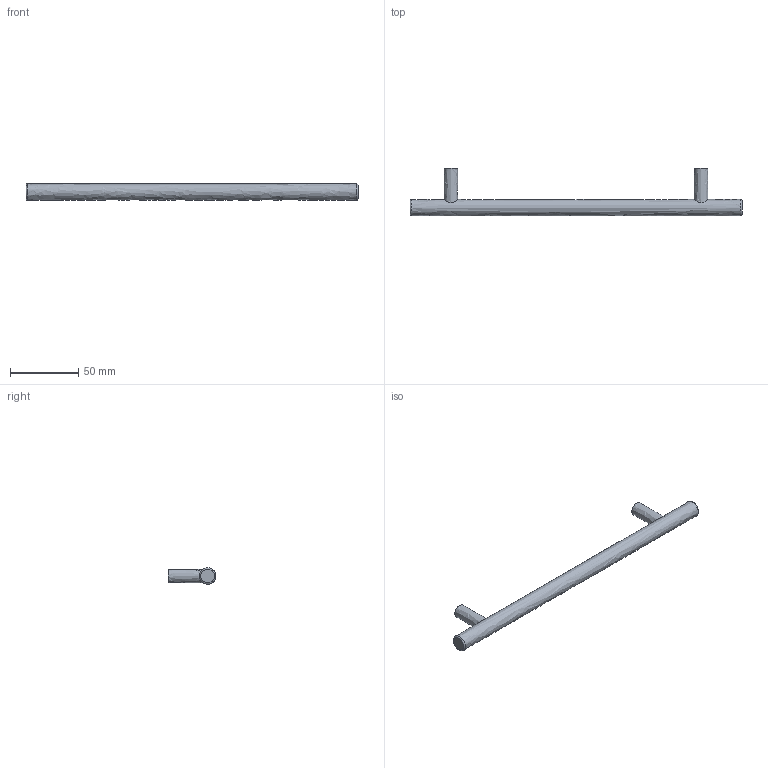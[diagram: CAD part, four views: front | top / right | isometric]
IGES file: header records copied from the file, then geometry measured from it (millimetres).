
Start section: Data from Parasolid IGES Translator 15.0.47, Copyright(c) 2006 Siemens P LM Software. All Rights Reserved.
Global section: file name: 9070746.igs; native system:  By UGS Corp.; preprocessor: XPlus GENERIC/IGES 3.0; author: Noname; organization: Noname; date: 20140123.103845; units: millimetre
Bounding box: 244 x 35 x 12 mm (x, y, z)
Surface area: 11096.3 mm2 (no closed solid volume)
Topology: 0 solids, 0 shells, 13 faces, 42 edges, 34 vertices
Faces by surface type: revolution 7, extrusion 6
